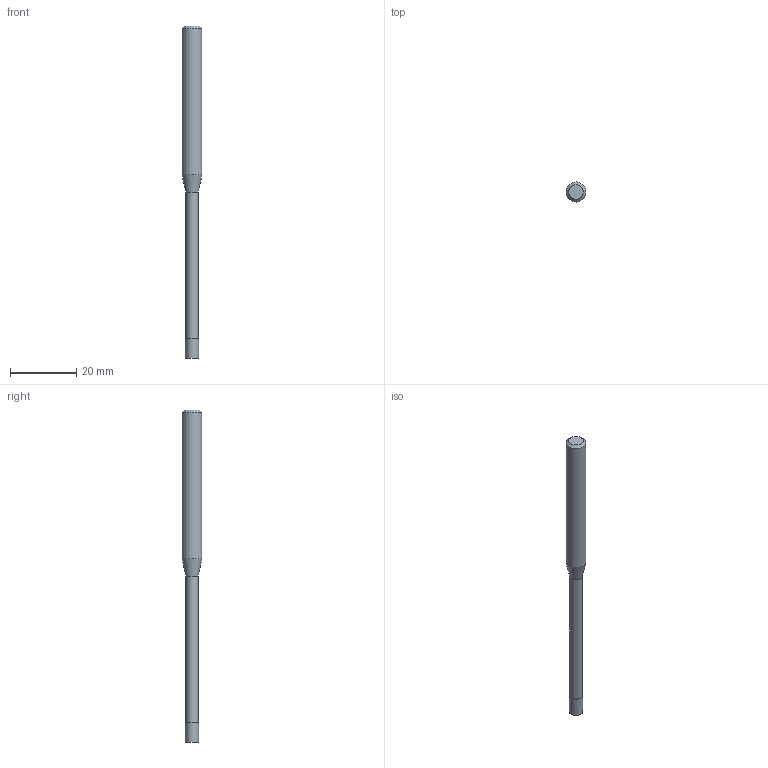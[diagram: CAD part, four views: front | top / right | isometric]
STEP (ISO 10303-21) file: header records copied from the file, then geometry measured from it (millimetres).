
FILE_DESCRIPTION((''),'2;1');
FILE_NAME('C:\Users\nsx150\AppData\Local\Temp\Mastercam 2021\17T8Q8S9EB\TEMP.step','2021-04-21T14:28:51',(''),(''),'STEP Write','Mastercam 2021 ... CNC Software, Inc.','');
FILE_SCHEMA(('AUTOMOTIVE_DESIGN'));
Length unit declared in the file: millimetre
Products named in the file (1): None
Bounding box: 6 x 6 x 100 mm (x, y, z)
Volume: 1935.5 mm3; surface area: 1582.1 mm2
Topology: 2 solids, 2 shells, 9 faces, 12 edges, 7 vertices
Faces by surface type: plane 4, cylinder 3, cone 2
Full cylindrical faces by diameter (mm): 3.8 x1, 4 x1, 6 x1
Entity records: 211 total; most frequent: DIRECTION 36, CARTESIAN_POINT 25, AXIS2_PLACEMENT_3D 18, ORIENTED_EDGE 14, EDGE_LOOP 14, STYLED_ITEM 12, ADVANCED_FACE 9, FACE_BOUND 8
